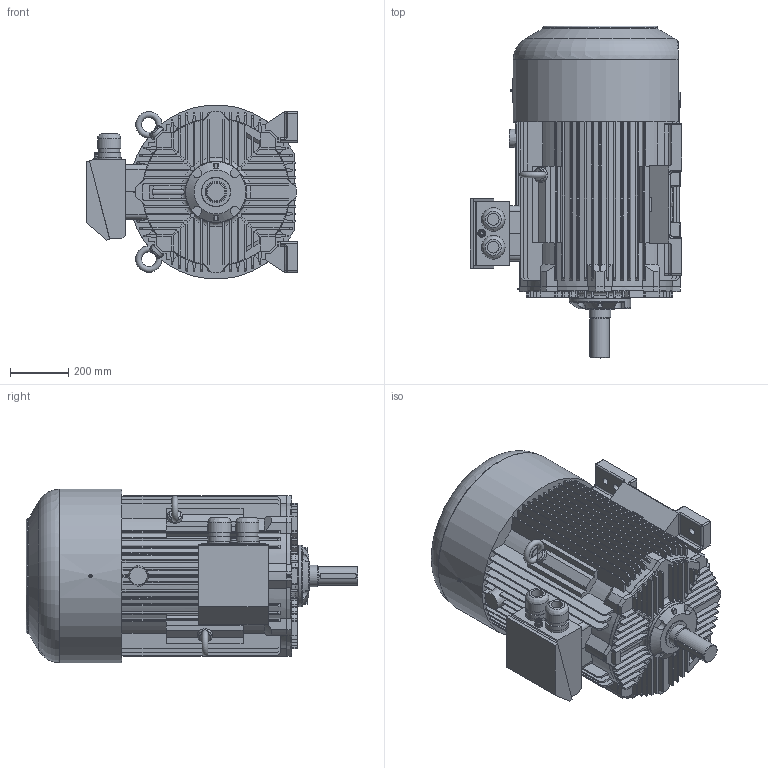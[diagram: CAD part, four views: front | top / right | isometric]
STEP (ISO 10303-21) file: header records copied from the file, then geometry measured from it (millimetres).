
FILE_DESCRIPTION( ( 'Unknown' ), '1' );
FILE_NAME( 'P:/3D_Bry³y silników skatalogowane/SIE/2SIE280/STP_2SIE280/2SIE280 M_S2.stp', 'Unknown', ( 'Unknown' ), ( 'Unknown' ), 'XStep 1.0', 'Unknown', ' ' );
FILE_SCHEMA( ( 'CONFIG_CONTROL_DESIGN' ) );
Length unit declared in the file: millimetre
Products named in the file (3): 1; 2; 3
Bounding box: 724.3 x 1134.98 x 594.39 mm (x, y, z)
Volume: 226462927.8 mm3; surface area: 4840239.1 mm2
Topology: 3 solids, 4 shells, 1414 faces, 3832 edges, 2421 vertices
Faces by surface type: plane 750, cylinder 390, torus 84, bspline 83, cone 67, sphere 40
Full cylindrical faces by diameter (mm): 1.6 x2, 5 x5, 11.083 x1, 19 x1, 20.752 x4, 21 x1, 23 x1, 24 x6, 27 x1, 40 x2, 50 x2, 65 x1, 71.32 x2, 74.5 x1, 78.781 x2, 80.024 x2, 81.268 x2, 98.8 x1, 100 x1, 208 x1, 210 x1
Entity records: 63015 total; most frequent: CARTESIAN_POINT 28288, ORIENTED_EDGE 7398, DIRECTION 7009, EDGE_CURVE 3699, AXIS2_PLACEMENT_3D 2440, VERTEX_POINT 2398, LINE 2129, VECTOR 2129
